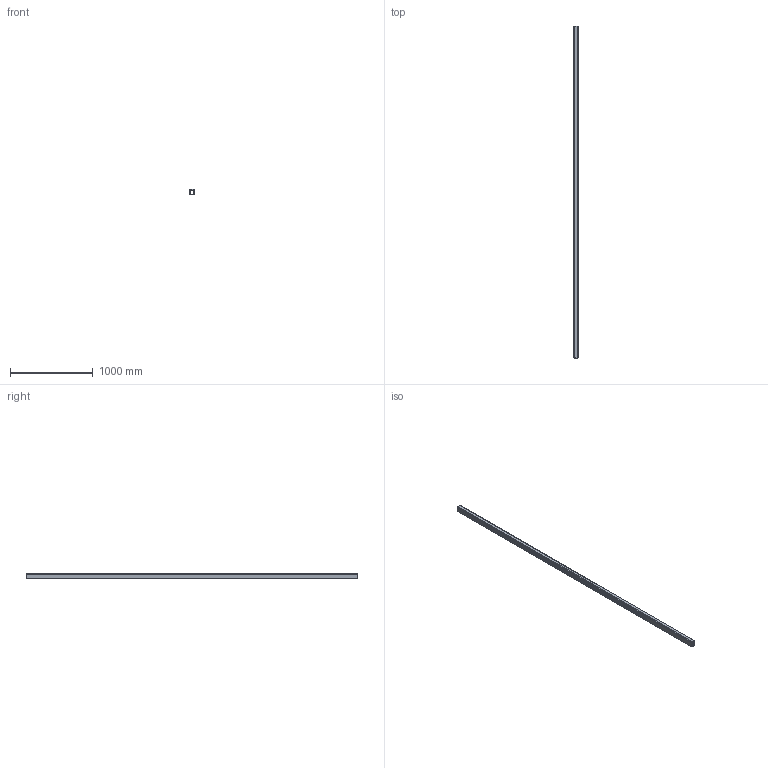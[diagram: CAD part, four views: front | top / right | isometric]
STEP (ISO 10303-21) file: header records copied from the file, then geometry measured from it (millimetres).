
FILE_DESCRIPTION(/* description */ ('Unknown'),/* implementation_level */ '2;1');
FILE_NAME(/* name */ 'MI44xx_MI46xx_Profil Inno 4m_SPL',/* time_stamp */ '2018-08-09T17:19:15+02:00',/* author */ ('Unknown'),/* organization */ ('Unknown'),/* preprocessor_version */ 'ST-DEVELOPER v16.7',/* originating_system */ 'DEX',/* authorisation */ $);
FILE_SCHEMA (('AUTOMOTIVE_DESIGN {1 0 10303 214 3 1 1}'));
Length unit declared in the file: millimetre
Products named in the file (1): MI44xx_MI46xx_Profil Inno 4m_SPL
Bounding box: 54 x 4000 x 70 mm (x, y, z)
Volume: 6639302.6 mm3; surface area: 1997691.9 mm2
Topology: 1 solids, 1 shells, 154 faces, 456 edges, 304 vertices
Faces by surface type: plane 92, cylinder 62
Entity records: 6267 total; most frequent: CARTESIAN_POINT 915, ORIENTED_EDGE 912, DIRECTION 890, EDGE_CURVE 456, LINE 332, VECTOR 332, VERTEX_POINT 304, AXIS2_PLACEMENT_3D 279
